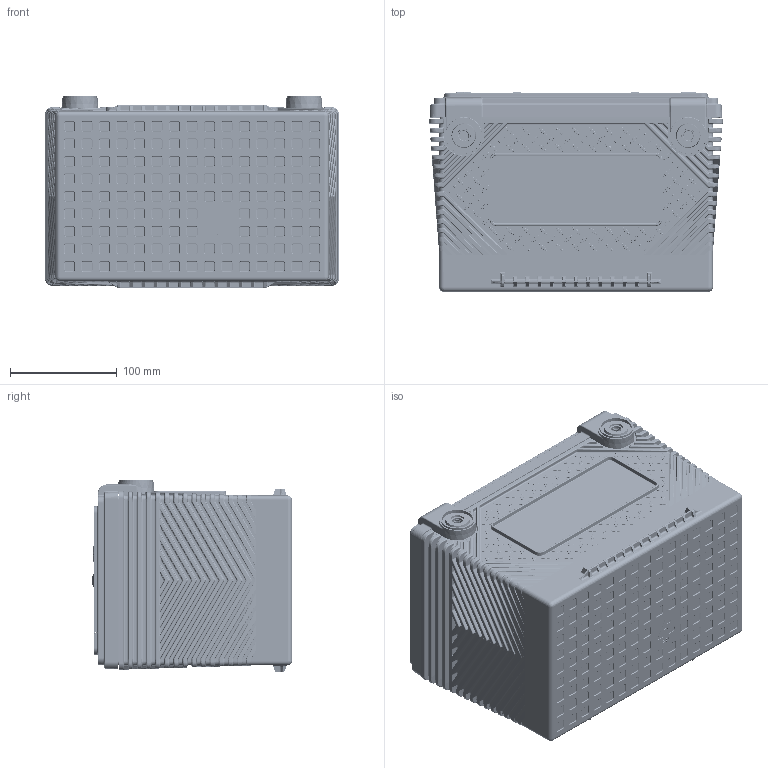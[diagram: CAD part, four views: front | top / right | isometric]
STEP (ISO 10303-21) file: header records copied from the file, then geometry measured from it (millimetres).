
FILE_DESCRIPTION (( 'STEP AP203' ), '1' );
FILE_NAME ('ODP-AGM78.STEP', '2024-03-27T12:58:02', ( '' ), ( '' ), 'SwSTEP 2.0', 'SolidWorks 2022', '' );
FILE_SCHEMA (( 'CONFIG_CONTROL_DESIGN' ));
Products named in the file (1): ODP-AGM78
Bounding box: 274.83 x 187.01 x 179.98 mm (x, y, z)
Volume: 1410611 mm3; surface area: 923348.4 mm2
Topology: 17 solids, 17 shells, 15362 faces, 36762 edges, 21184 vertices
Faces by surface type: cylinder 5475, plane 3174, torus 2698, bspline 2603, cone 1049, sphere 363
Full cylindrical faces by diameter (mm): 9.5 x2, 10.922 x4, 18.059 x6, 19.533 x12, 22.327 x16, 23.825 x2, 28.753 x2, 31.598 x2
Entity records: 502726 total; most frequent: CARTESIAN_POINT 170968, ORIENTED_EDGE 71794, DIRECTION 69167, EDGE_CURVE 35897, AXIS2_PLACEMENT_3D 27499, VERTEX_POINT 21095, EDGE_LOOP 15930, FACE_OUTER_BOUND 15450
